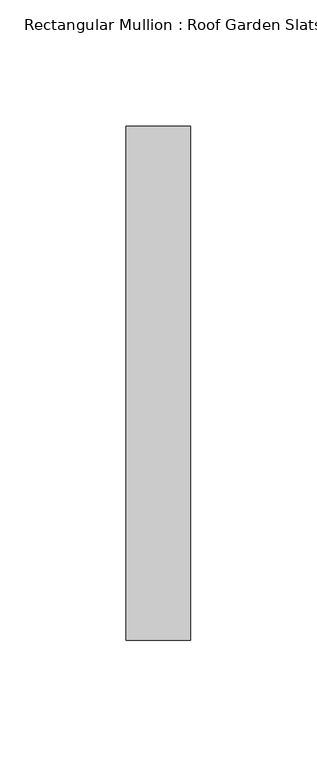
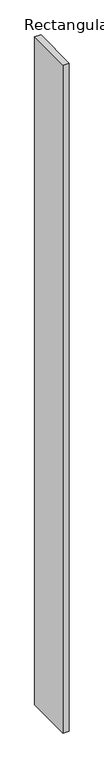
"""IFC4 building model written with IfcOpenShell, lengths in millimetres: member geometry, Rectangular Mullion : Roof Garden Slats."""

from ifc_helpers import new_model, si_unit, frame, origin, place, context, project, spatial, polyline, outline, extrude, source, transform, mapped, element, save


def rectangular_mullion_roof_garden_slats_553dd7f0(model_context):
    return source(origin(), model_context, "Body", "SweptSolid", [
        extrude(outline(polyline([(12.7, 139.7), (12.7, -63.5), (-12.7, -63.5), (-12.7, 139.7), (12.7, 139.7)])), frame((0.0, 0.0, -2928.8589695), z_axis=(0.0, 0.0, 1.0), x_axis=(1.0, 0.0, 0.0)), (0.0, 0.0, 1.0), 2928.8589695),
    ])


if __name__ == "__main__":
    model = new_model("IFC4")
    model_context = context("Model", 3, world=origin())
    ifc_project = project(units=[si_unit("LENGTHUNIT", "METRE", prefix="MILLI")], contexts=[model_context])
    site = spatial("IfcSite", under=ifc_project)
    building = spatial("IfcBuilding", under=site)
    placement = place(None, origin())
    rectangular_mullion_roof_garden_slats_shape = rectangular_mullion_roof_garden_slats_553dd7f0(model_context)
    element("IfcMember", 1, ObjectType="Rectangular Mullion : Roof Garden Slats", at=placement, inside=building, context=model_context, shape_type="MappedRepresentation", body=[
        mapped(rectangular_mullion_roof_garden_slats_shape, transform((0.0, 0.0, 0.0), x_axis=(1.0, 0.0, 0.0), y_axis=(0.0, 1.0, 0.0), z_axis=(0.0, 0.0, 1.0))),
    ])
    save(model, "model.ifc")
